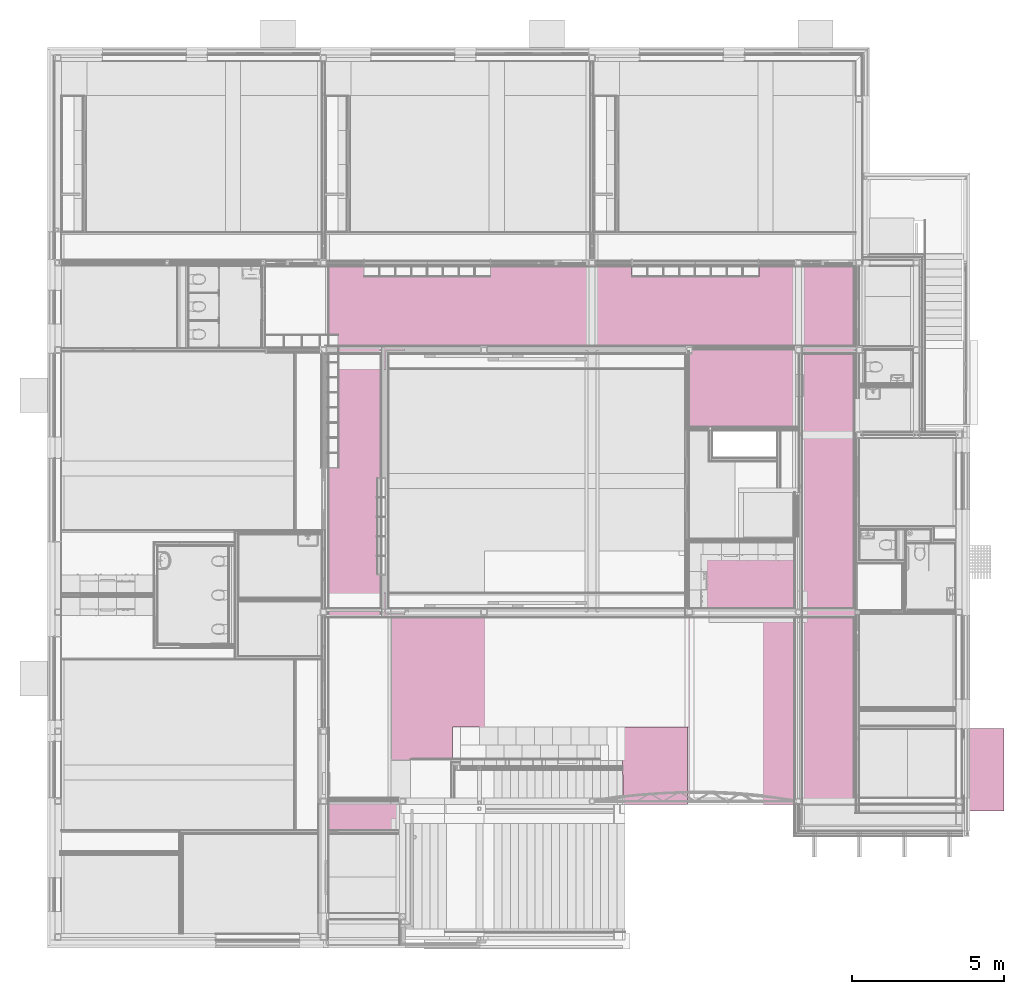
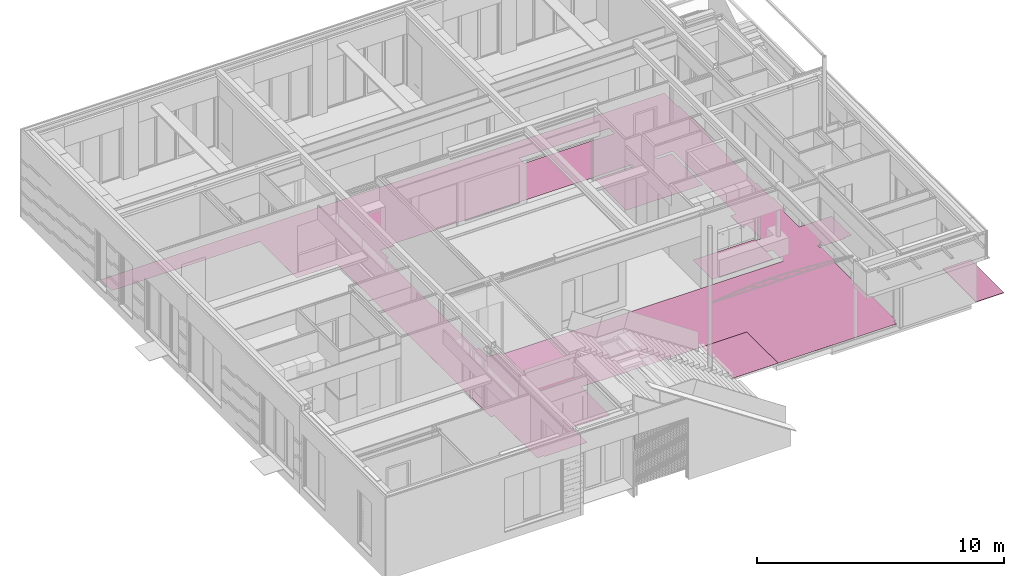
# One storey, part 124 of 165: 4 furnishings.
"""IFC2X3 building model written with IfcOpenShell, lengths in millimetres."""

from ifc_helpers import new_model, entity, si_unit, converted_unit, derived_unit, money_unit, direction, frame, origin_with_axes, place, context, subcontext, project, spatial, faceted_brep, material, type_object, element, save


model = new_model("IFC2X3")

# Units and contexts
model_context = context("Model", 3, precision=0.01, world=origin_with_axes(), true_north=direction((0.0, 1.0)))
body_context = subcontext(model_context, "Body", "Model", "MODEL_VIEW")
ifc_project = project(units=[si_unit("LENGTHUNIT", "METRE", prefix="MILLI"), si_unit("AREAUNIT", "SQUARE_METRE"), si_unit("VOLUMEUNIT", "CUBIC_METRE"), converted_unit("PLANEANGLEUNIT", "DEGREE", entity("IfcPlaneAngleMeasure", 0.0174532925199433), si_unit("PLANEANGLEUNIT", "RADIAN"), dimensions=[0, 0, 0, 0, 0, 0, 0]), money_unit("EUR"), converted_unit("TIMEUNIT", "Year", entity("IfcTimeMeasure", 31556926.0), si_unit("TIMEUNIT", "SECOND"), dimensions=[0, 0, 1, 0, 0, 0, 0]), si_unit("MASSUNIT", "GRAM", prefix="KILO"), si_unit("THERMODYNAMICTEMPERATUREUNIT", "DEGREE_CELSIUS"), si_unit("LUMINOUSINTENSITYUNIT", "LUMEN"), si_unit("ENERGYUNIT", "JOULE", prefix="MEGA"), derived_unit("THERMALCONDUCTANCEUNIT", [(si_unit("POWERUNIT", "WATT"), 1), (si_unit("LENGTHUNIT", "METRE"), -1), (si_unit("THERMODYNAMICTEMPERATUREUNIT", "KELVIN"), -1)]), derived_unit("SPECIFICHEATCAPACITYUNIT", [(si_unit("ENERGYUNIT", "JOULE"), 1), (si_unit("MASSUNIT", "GRAM", prefix="KILO"), -1), (si_unit("THERMODYNAMICTEMPERATUREUNIT", "KELVIN"), -1)]), derived_unit("MASSDENSITYUNIT", [(si_unit("MASSUNIT", "GRAM", prefix="KILO"), 1), (si_unit("VOLUMEUNIT", "CUBIC_METRE"), -1)])], contexts=[model_context])

# Site, building, storey
site_placement = place(None, origin_with_axes())
site = spatial("IfcSite", under=ifc_project, at=site_placement, Name="Site", CompositionType="ELEMENT")
building_placement = place(site_placement, origin_with_axes())
building = spatial("IfcBuilding", under=site, at=building_placement, Name="Naam gebouw", CompositionType="ELEMENT")
storey_placement = place(building_placement, origin_with_axes())
storey = spatial("IfcBuildingStorey", under=building, at=storey_placement, Name="Begane grond", CompositionType="ELEMENT", Elevation=0.0)

# Furnishings
ifc_material_1 = material(Name="48 vloeivloer Bolidt")
furniture_type_1 = type_object("IfcFurnitureType", Name="48 vloeivloer Bolidt 2", AssemblyPlace="NOTDEFINED")
furnishing_1_placement = place(storey_placement, frame((20899.99903050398, 13104.99810421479, 0.0), z_axis=(0.0, 0.0, 1.0), x_axis=(1.0, 0.0, 0.0)))
element("IfcFurnishingElement", 1, at=furnishing_1_placement, inside=storey, type_object=furniture_type_1, material=ifc_material_1, Name="72_44 vloeivloer", ObjectType="SHELF", context=body_context, shape_type="Brep", body=[
    faceted_brep([(582.0026438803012, -959.9992874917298, 0.0), (582.0026438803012, -1559.99928749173, 0.0), (582.0026438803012, -2159.999287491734, 0.0), (582.0026438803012, -2159.999287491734, 2.000000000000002), (582.0026438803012, -1559.99928749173, 2.000000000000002), (582.0026438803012, -959.9992874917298, 2.000000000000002), (582.0026438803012, -582.0004021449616, 2.000000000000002), (582.0026438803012, -582.0004021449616, 0.0), (3465.000009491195, -582.0004021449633, 0.0), (3464.999583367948, -2159.999295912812, 0.0), (3464.999583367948, -2159.999295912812, 2.000000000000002), (3465.000009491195, -582.0004021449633, 2.000000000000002)], [[[0, 1, 2, 3, 4, 5, 6, 7]], [[1, 0, 7, 8, 9, 2]], [[9, 10, 3, 2]], [[5, 4, 3, 10, 11, 6]], [[8, 7, 6, 11]], [[11, 10, 9, 8]]]),
])
ifc_material_2 = material(Name="43 Forbo Striato")
furniture_type_2 = type_object("IfcFurnitureType", Name="43 Forbo Striato  2", AssemblyPlace="NOTDEFINED")
furnishing_2_placement = place(storey_placement, frame((-2.579226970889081e-06, 23324.99984707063, 0.0), z_axis=(0.0, 0.0, 1.0), x_axis=(1.0, 0.0, 0.0)))
element("IfcFurnishingElement", 2, at=furnishing_2_placement, inside=storey, type_object=furniture_type_2, material=ifc_material_2, Name="72_43 marmoleum", ObjectType="SHELF", context=body_context, shape_type="Brep", body=[
    faceted_brep([(18199.00001944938, -16322.99955459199, 2.000000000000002), (18200.00001944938, -16322.99955459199, 2.000000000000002), (18199.99999184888, -16304.99984707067, 2.000000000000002), (20840.00000257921, -16304.99984707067, 2.000000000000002), (20840.00000257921, -18845.00059021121, 2.000000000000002), (26386.00000257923, -18844.99984707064, 2.000000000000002), (26386.00000257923, -18630.99984707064, 2.000000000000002), (26496.00000257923, -18630.99984707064, 2.000000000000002), (26496.00000257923, -16620.99984707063, 2.000000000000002), (26386.00000257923, -16620.99984707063, 2.000000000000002), (26386.00000257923, -13777.49973651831, 2.000000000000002), (26448.50000257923, -13777.49973651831, 2.000000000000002), (26448.50000257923, -12577.49973651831, 2.000000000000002), (26386.00000257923, -12577.49973651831, 2.000000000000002), (26386.00000257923, -12452.49974272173, 2.000000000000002), (26511.0000160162, -12452.49973355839, 2.000000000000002), (26511.0000160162, -12577.49973651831, 2.000000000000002), (27590.81766259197, -12577.49973651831, 2.000000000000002), (27590.81766259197, -12514.99972801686, 2.000000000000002), (27924.99999595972, -12514.99973718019, 2.000000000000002), (27924.99999595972, -10925.00163992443, 2.000000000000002), (26386.00000257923, -10925.00163992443, 2.000000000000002), (26386.00000257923, -9675.00206540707, 2.000000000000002), (26511.00000257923, -9675.00206540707, 2.000000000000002), (26511.00000257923, -8595.002065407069, 2.000000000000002), (26448.50000257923, -8595.002065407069, 2.000000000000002), (26448.50000257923, -7395.002065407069, 2.000000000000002), (26386.00000257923, -7395.002065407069, 2.000000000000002), (26386.00000257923, -3749.999454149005, 2.000000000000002), (26436.00000257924, -3749.999454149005, 2.000000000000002), (26436.00000257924, -3244.02360432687, 2.000000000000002), (26496.00000257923, -3244.02360432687, 2.000000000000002), (26496.00000257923, -2114.023594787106, 2.000000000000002), (26451.00000257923, -2114.023594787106, 2.000000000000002), (26451.00000257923, -1114.023476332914, 2.000000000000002), (26386.00000257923, -1114.023476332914, 2.000000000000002), (26386.00000257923, 0.0, 2.000000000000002), (0.0, 0.0, 2.000000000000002), (0.0, -884.982038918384, 2.000000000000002), (214.0016831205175, -885.0000001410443, 2.000000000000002), (214.0000025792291, -905.0230615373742, 2.000000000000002), (6939.99992100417, -905.0051004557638, 2.000000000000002), (6939.99992100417, -3875.000035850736, 2.000000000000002), (8850.000002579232, -3875.000035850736, 2.000000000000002), (8850.000002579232, -16319.99984707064, 2.000000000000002), (9025.000002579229, -16319.99984707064, 2.000000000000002), (9025.000002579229, -19762.50413489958, 2.000000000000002), (9326.000002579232, -19762.50413489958, 2.000000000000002), (9326.000002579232, -19825.00413489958, 2.000000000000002), (11336.00000257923, -19825.00413489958, 2.000000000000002), (11336.00000257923, -18631.00009071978, 2.000000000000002), (13098.57016425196, -18630.99981325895, 2.000000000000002), (13098.57016425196, -16304.99984707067, 2.000000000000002), (14000.00004201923, -16304.99984707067, 2.000000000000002), (14000.00001944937, -16322.99955459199, 2.000000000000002), (14001.00001944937, -16322.99955459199, 2.000000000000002), (14001.00001944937, -16304.99955459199, 2.000000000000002), (14599.00001944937, -16304.99955459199, 2.000000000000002), (14599.00001944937, -16322.99955459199, 2.000000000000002), (14582.00001944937, -16322.99955459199, 2.000000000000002), (14582.00001944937, -16323.99955459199, 2.000000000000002), (14618.00001944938, -16323.99955459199, 2.000000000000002), (14618.00001944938, -16322.99955459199, 2.000000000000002), (14601.00001944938, -16322.99955459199, 2.000000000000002), (14601.00001944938, -16304.99955459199, 2.000000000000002), (15199.00001944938, -16304.99955459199, 2.000000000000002), (15199.00001944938, -16322.99955459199, 2.000000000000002), (15182.00001944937, -16322.99955459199, 2.000000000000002), (15182.00001944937, -16323.99955459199, 2.000000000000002), (15218.00001944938, -16323.99955459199, 2.000000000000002), (15218.00001944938, -16322.99955459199, 2.000000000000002), (15201.00001944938, -16322.99955459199, 2.000000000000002), (15201.00001944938, -16304.99955459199, 2.000000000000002), (15799.00001944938, -16304.99955459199, 2.000000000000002), (15799.00001944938, -16322.99955459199, 2.000000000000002), (15782.00001944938, -16322.99955459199, 2.000000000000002), (15782.00001944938, -16323.99955459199, 2.000000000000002), (15818.00001944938, -16323.99955459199, 2.000000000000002), (15818.00001944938, -16322.99955459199, 2.000000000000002), (15801.00001944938, -16322.99955459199, 2.000000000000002), (15801.00001944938, -16304.99955459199, 2.000000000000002), (16399.00001944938, -16304.99955459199, 2.000000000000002), (16399.00001944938, -16322.99955459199, 2.000000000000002), (16382.00001944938, -16322.99955459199, 2.000000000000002), (16382.00001944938, -16323.99955459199, 2.000000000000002), (16418.00001944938, -16323.99955459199, 2.000000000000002), (16418.00001944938, -16322.99955459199, 2.000000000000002), (16401.00001944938, -16322.99955459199, 2.000000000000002), (16401.00001944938, -16304.99955459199, 2.000000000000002), (16999.00001944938, -16304.99955459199, 2.000000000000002), (16999.00001944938, -16322.99955459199, 2.000000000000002), (16982.00001944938, -16322.99955459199, 2.000000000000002), (16982.00001944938, -16323.99955459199, 2.000000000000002), (17018.00001944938, -16323.99955459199, 2.000000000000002), (17018.00001944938, -16322.99955459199, 2.000000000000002), (17001.00001944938, -16322.99955459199, 2.000000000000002), (17001.00001944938, -16304.99955459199, 2.000000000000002), (17599.00001944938, -16304.99955459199, 2.000000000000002), (17599.00001944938, -16322.99955459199, 2.000000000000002), (17582.00001944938, -16322.99955459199, 2.000000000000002), (17582.00001944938, -16323.99955459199, 2.000000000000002), (17600.00001944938, -16323.99955459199, 2.000000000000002), (17618.00001944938, -16323.99955459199, 2.000000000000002), (17618.00001944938, -16322.99955459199, 2.000000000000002), (17601.00001944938, -16322.99955459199, 2.000000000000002), (17601.00001944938, -16304.99955459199, 2.000000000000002), (18199.00001944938, -16304.99955459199, 2.000000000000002), (24634.99904257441, -9760.001898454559, 2.000000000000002), (24634.9990425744, -10870.00214500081, 2.000000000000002), (24364.99903527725, -10870.00203554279, 2.000000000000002), (24364.99865014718, -11820.00203554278, 2.000000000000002), (24634.99865744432, -11820.00214500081, 2.000000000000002), (24634.99906809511, -12705.00103034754, 2.000000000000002), (11515.00000257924, -12705.00103034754, 2.000000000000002), (11515.00000257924, -12565.00103034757, 2.000000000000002), (10874.99999623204, -12565.00103034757, 2.000000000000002), (10875.00008382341, -11875.00103034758, 2.000000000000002), (10740.00000257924, -11875.00103034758, 2.000000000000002), (10740.00000257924, -4514.999454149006, 2.000000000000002), (10875.00008382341, -4514.999454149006, 2.000000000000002), (10875.00000257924, -3874.999454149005, 2.000000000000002), (11515.00000257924, -3874.999454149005, 2.000000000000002), (11515.00000257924, -3739.999454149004, 2.000000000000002), (22719.98347582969, -3739.999454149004, 2.000000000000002), (22719.98347582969, -3864.999454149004, 2.000000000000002), (20900.65795118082, -3864.999454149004, 2.000000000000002), (20900.65795118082, -6410.00206540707, 2.000000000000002), (24509.99904257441, -6410.002021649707, 2.000000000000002), (24509.99904257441, -3864.999454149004, 2.000000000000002), (23799.98347582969, -3864.999454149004, 2.000000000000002), (23799.98347582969, -3739.999454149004, 2.000000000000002), (24634.99904257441, -3739.999454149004, 2.000000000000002), (24634.99904257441, -8860.001898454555, 2.000000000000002), (24364.99896548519, -8860.001898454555, 2.000000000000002), (24364.99904257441, -9760.001898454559, 2.000000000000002), (18999.9990425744, -1462.523633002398, 2.000000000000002), (18999.9990425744, -1062.520596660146, 2.000000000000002), (23199.99904257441, -1062.520596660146, 2.000000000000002), (23199.99904257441, -1462.523633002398, 2.000000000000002), (18200.00001944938, -16322.99955459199, 0.0), (18199.00001944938, -16322.99955459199, 1.000000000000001), (17618.00001944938, -16322.99955459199, 1.000000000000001), (17618.00001944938, -16322.99955459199, 0.0), (18199.99999184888, -16304.99984707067, 0.0), (20840.00000257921, -16304.99984707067, 0.0), (20840.00000257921, -18845.00059021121, 0.0), (26386.00000257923, -18844.99984707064, 0.0), (26386.00000257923, -18630.99984707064, 0.0), (26496.00000257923, -18630.99984707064, 0.0), (26496.00000257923, -16620.99984707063, 0.0), (26386.00000257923, -16620.99984707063, 0.0), (26386.00000257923, -13777.49973651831, 0.0), (26448.50000257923, -13777.49973651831, 0.0), (26448.50000257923, -12577.49973651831, 0.0), (26386.00000257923, -12577.49973651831, 0.0), (26386.00000257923, -12452.49974272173, 0.0), (26511.0000160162, -12452.49973355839, 0.0), (26511.0000160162, -12577.49973651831, 0.0), (27590.81766259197, -12577.49973651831, 0.0), (27590.81766259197, -12514.99972801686, 0.0), (27924.99999595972, -12514.99973718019, 0.0), (27924.99999595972, -10925.00163992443, 0.0), (26386.00000257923, -10925.00163992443, 0.0), (26386.00000257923, -9675.00206540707, 0.0), (26511.00000257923, -9675.00206540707, 0.0), (26511.00000257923, -8595.002065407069, 0.0), (26448.50000257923, -8595.002065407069, 0.0), (26448.50000257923, -7395.002065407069, 0.0), (26386.00000257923, -7395.002065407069, 0.0), (26386.00000257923, -3749.999454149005, 0.0), (26436.00000257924, -3749.999454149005, 0.0), (26436.00000257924, -3244.02360432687, 0.0), (26496.00000257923, -3244.02360432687, 0.0), (26496.00000257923, -2114.023594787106, 0.0), (26451.00000257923, -2114.023594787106, 0.0), (26451.00000257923, -1114.023476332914, 0.0), (26386.00000257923, -1114.023476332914, 0.0), (26386.00000257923, 0.0, 0.0), (0.0, 0.0, 0.0), (0.0, -884.982038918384, 0.0), (214.0016831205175, -885.0000001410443, 0.0), (214.0000025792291, -905.0230615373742, 0.0), (6939.99992100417, -905.0051004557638, 0.0), (6939.99992100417, -3875.000035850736, 0.0), (8850.000002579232, -3875.000035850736, 0.0), (8850.000002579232, -16319.99984707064, 0.0), (9025.000002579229, -16319.99984707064, 0.0), (9025.000002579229, -19762.50413489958, 0.0), (9326.000002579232, -19762.50413489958, 0.0), (9326.000002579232, -19825.00413489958, 0.0), (11336.00000257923, -19825.00413489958, 0.0), (11336.00000257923, -18631.00009071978, 0.0), (13098.57016425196, -18630.99981325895, 0.0), (13098.57016425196, -16304.99984707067, 0.0), (14000.00004201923, -16304.99984707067, 0.0), (14000.00001944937, -16322.99955459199, 0.0), (14582.00001944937, -16322.99955459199, 0.0), (14582.00001944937, -16322.99955459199, 1.000000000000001), (14001.00001944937, -16322.99955459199, 1.000000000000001), (14001.00001944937, -16304.99955459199, 1.000000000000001), (14599.00001944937, -16304.99955459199, 1.000000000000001), (14599.00001944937, -16322.99955459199, 1.000000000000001), (14582.00001944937, -16894.99955459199, 0.0), (14582.00001944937, -16894.99955459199, 2.000000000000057), (14582.00001944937, -16893.99955459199, 2.000000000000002), (14582.00001944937, -16893.99955459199, 1.000000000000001), (14582.00001944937, -16323.99955459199, 1.000000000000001), (14618.00001944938, -16323.99955459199, 1.000000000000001), (14618.00001944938, -16893.99955459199, 1.000000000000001), (14618.00001944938, -16893.99955459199, 2.000000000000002), (14618.00001944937, -16894.99955459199, 2.000000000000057), (14618.00001944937, -16894.99955459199, 0.0), (14618.00001944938, -16322.99955459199, 0.0), (14618.00001944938, -16322.99955459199, 1.000000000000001), (14601.00001944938, -16322.99955459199, 1.000000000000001), (14601.00001944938, -16304.99955459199, 1.000000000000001), (15199.00001944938, -16304.99955459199, 1.000000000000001), (15199.00001944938, -16322.99955459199, 1.000000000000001), (15182.00001944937, -16322.99955459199, 1.000000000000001), (15182.00001944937, -16894.99955459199, 0.0), (15182.00001944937, -16894.99955459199, 2.000000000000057), (15182.00001944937, -16893.99955459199, 2.000000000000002), (15182.00001944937, -16893.99955459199, 1.000000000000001), (15182.00001944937, -16323.99955459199, 1.000000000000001), (15182.00001944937, -16322.99955459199, 0.0), (15218.00001944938, -16323.99955459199, 1.000000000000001), (15218.00001944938, -16893.99955459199, 2.000000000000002), (15218.00001944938, -16894.99955459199, 2.000000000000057), (15218.00001944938, -16894.99955459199, 0.0), (15218.00001944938, -16322.99955459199, 0.0), (15218.00001944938, -16322.99955459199, 1.000000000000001), (15218.00001944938, -16893.99955459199, 1.000000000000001), (15201.00001944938, -16322.99955459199, 1.000000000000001), (15201.00001944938, -16304.99955459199, 1.000000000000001), (15799.00001944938, -16304.99955459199, 1.000000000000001), (15799.00001944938, -16322.99955459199, 1.000000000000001), (15782.00001944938, -16322.99955459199, 1.000000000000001), (15782.00001944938, -16894.99955459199, 2.000000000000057), (15782.00001944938, -16893.99955459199, 2.000000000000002), (15782.00001944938, -16893.99955459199, 1.000000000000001), (15782.00001944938, -16323.99955459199, 1.000000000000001), (15782.00001944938, -16322.99955459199, 0.0), (15782.00001944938, -16894.99955459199, 0.0), (15818.00001944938, -16323.99955459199, 1.000000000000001), (15818.00001944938, -16894.99955459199, 2.000000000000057), (15818.00001944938, -16894.99955459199, 0.0), (15818.00001944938, -16322.99955459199, 0.0), (15818.00001944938, -16322.99955459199, 1.000000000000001), (15818.00001944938, -16893.99955459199, 1.000000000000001), (15818.00001944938, -16893.99955459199, 2.000000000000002), (15801.00001944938, -16322.99955459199, 1.000000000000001), (15801.00001944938, -16304.99955459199, 1.000000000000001), (16399.00001944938, -16304.99955459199, 1.000000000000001), (16399.00001944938, -16322.99955459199, 1.000000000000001), (16382.00001944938, -16322.99955459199, 1.000000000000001), (16382.00001944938, -16893.99955459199, 2.000000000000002), (16382.00001944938, -16893.99955459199, 1.000000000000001), (16382.00001944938, -16323.99955459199, 1.000000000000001), (16382.00001944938, -16322.99955459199, 0.0), (16382.00001944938, -16894.99955459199, 0.0), (16382.00001944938, -16894.99955459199, 2.000000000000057), (16418.00001944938, -16323.99955459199, 1.000000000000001), (16418.00001944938, -16894.99955459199, 0.0), (16418.00001944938, -16322.99955459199, 0.0), (16418.00001944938, -16322.99955459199, 1.000000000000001), (16418.00001944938, -16893.99955459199, 1.000000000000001), (16418.00001944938, -16893.99955459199, 2.000000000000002), (16418.00001944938, -16894.99955459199, 2.000000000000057), (16401.00001944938, -16322.99955459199, 1.000000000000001), (16401.00001944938, -16304.99955459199, 1.000000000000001), (16999.00001944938, -16304.99955459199, 1.000000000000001), (16999.00001944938, -16322.99955459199, 1.000000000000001), (16982.00001944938, -16322.99955459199, 1.000000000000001), (16982.00001944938, -16893.99955459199, 1.000000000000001), (16982.00001944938, -16323.99955459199, 1.000000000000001), (16982.00001944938, -16322.99955459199, 0.0), (16982.00001944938, -16894.99955459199, 0.0), (16982.00001944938, -16894.99955459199, 2.000000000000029), (16982.00001944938, -16893.99955459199, 2.000000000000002), (17018.00001944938, -16323.99955459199, 1.000000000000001), (17018.00001944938, -16322.99955459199, 0.0), (17018.00001944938, -16322.99955459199, 1.000000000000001), (17018.00001944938, -16893.99955459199, 1.000000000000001), (17018.00001944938, -16893.99955459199, 2.000000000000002), (17018.00001944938, -16894.99955459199, 2.000000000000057), (17018.00001944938, -16894.99955459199, 0.0), (17001.00001944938, -16322.99955459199, 1.000000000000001), (17001.00001944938, -16304.99955459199, 1.000000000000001), (17599.00001944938, -16304.99955459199, 1.000000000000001), (17599.00001944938, -16322.99955459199, 1.000000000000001), (17582.00001944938, -16322.99955459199, 1.000000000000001), (17582.00001944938, -16323.99955459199, 1.000000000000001), (17582.00001944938, -16322.99955459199, 0.0), (17582.00001944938, -16894.99955459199, 0.0), (17582.00001944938, -16894.99955459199, 2.000000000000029), (17582.00001944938, -16893.99955459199, 2.000000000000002), (17582.00001944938, -16893.99955459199, 1.000000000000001), (17618.00001944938, -16323.99955459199, 1.000000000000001), (17618.00001944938, -16893.99955459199, 1.000000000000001), (17618.00001944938, -16893.99955459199, 2.000000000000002), (17618.00001944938, -16894.99955459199, 2.000000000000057), (17618.00001944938, -16894.99955459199, 0.0), (17601.00001944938, -16322.99955459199, 1.000000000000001), (17601.00001944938, -16304.99955459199, 1.000000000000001), (18199.00001944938, -16304.99955459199, 1.000000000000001), (24634.99904257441, -9760.001898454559, 0.0), (24634.9990425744, -10870.00214500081, 0.0), (24364.99903527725, -10870.00203554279, 0.0), (24364.99865014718, -11820.00203554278, 0.0), (24634.99865744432, -11820.00214500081, 0.0), (24634.99906809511, -12705.00103034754, 0.0), (11515.00000257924, -12705.00103034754, 0.0), (11515.00000257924, -12565.00103034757, 0.0), (10874.99999623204, -12565.00103034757, 0.0), (10875.00008382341, -11875.00103034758, 0.0), (10740.00000257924, -11875.00103034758, 0.0), (10740.00000257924, -4514.999454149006, 0.0), (10875.00008382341, -4514.999454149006, 0.0), (10875.00000257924, -3874.999454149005, 0.0), (11515.00000257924, -3874.999454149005, 0.0), (11515.00000257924, -3739.999454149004, 0.0), (22719.98347582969, -3739.999454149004, 0.0), (22719.98347582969, -3864.999454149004, 0.0), (20900.65795118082, -3864.999454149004, 0.0), (20900.65795118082, -6410.00206540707, 0.0), (24509.99904257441, -6410.002021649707, 0.0), (24509.99904257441, -3864.999454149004, 0.0), (23799.98347582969, -3864.999454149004, 0.0), (23799.98347582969, -3739.999454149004, 0.0), (24634.99904257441, -3739.999454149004, 0.0), (24634.99904257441, -8860.001898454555, 0.0), (24364.99896548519, -8860.001898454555, 0.0), (24364.99904257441, -9760.001898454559, 0.0), (18999.9990425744, -1462.523633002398, 0.0), (18999.9990425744, -1062.520596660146, 0.0), (23199.99904257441, -1062.520596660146, 0.0), (23199.99904257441, -1462.523633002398, 0.0), (17600.00001944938, -16893.99955459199, 2.000000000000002)], [[[0, 1, 2, 3, 4, 5, 6, 7, 8, 9, 10, 11, 12, 13, 14, 15, 16, 17, 18, 19, 20, 21, 22, 23, 24, 25, 26, 27, 28, 29, 30, 31, 32, 33, 34, 35, 36, 37, 38, 39, 40, 41, 42, 43, 44, 45, 46, 47, 48, 49, 50, 51, 52, 53, 54, 55, 56, 57, 58, 59, 60, 61, 62, 63, 64, 65, 66, 67, 68, 69, 70, 71, 72, 73, 74, 75, 76, 77, 78, 79, 80, 81, 82, 83, 84, 85, 86, 87, 88, 89, 90, 91, 92, 93, 94, 95, 96, 97, 98, 99, 100, 101, 102, 103, 104, 105, 106], [107, 108, 109, 110, 111, 112, 113, 114, 115, 116, 117, 118, 119, 120, 121, 122, 123, 124, 125, 126, 127, 128, 129, 130, 131, 132, 133, 134], [135, 136, 137, 138]], [[139, 1, 0, 140, 141, 142]], [[1, 139, 143, 2]], [[3, 2, 143, 144]], [[4, 3, 144, 145]], [[5, 4, 145, 146]], [[6, 5, 146, 147]], [[7, 6, 147, 148]], [[8, 7, 148, 149]], [[9, 8, 149, 150]], [[10, 9, 150, 151]], [[11, 10, 151, 152]], [[12, 11, 152, 153]], [[13, 12, 153, 154]], [[14, 13, 154, 155]], [[15, 14, 155, 156]], [[16, 15, 156, 157]], [[17, 16, 157, 158]], [[18, 17, 158, 159]], [[19, 18, 159, 160]], [[20, 19, 160, 161]], [[21, 20, 161, 162]], [[22, 21, 162, 163]], [[23, 22, 163, 164]], [[24, 23, 164, 165]], [[25, 24, 165, 166]], [[26, 25, 166, 167]], [[27, 26, 167, 168]], [[28, 27, 168, 169]], [[29, 28, 169, 170]], [[30, 29, 170, 171]], [[31, 30, 171, 172]], [[32, 31, 172, 173]], [[33, 32, 173, 174]], [[34, 33, 174, 175]], [[35, 34, 175, 176]], [[36, 35, 176, 177]], [[37, 36, 177, 178]], [[38, 37, 178, 179]], [[39, 38, 179, 180]], [[40, 39, 180, 181]], [[41, 40, 181, 182]], [[42, 41, 182, 183]], [[43, 42, 183, 184]], [[44, 43, 184, 185]], [[45, 44, 185, 186]], [[46, 45, 186, 187]], [[47, 46, 187, 188]], [[48, 47, 188, 189]], [[49, 48, 189, 190]], [[50, 49, 190, 191]], [[51, 50, 191, 192]], [[52, 51, 192, 193]], [[53, 52, 193, 194]], [[53, 194, 195, 54]], [[196, 197, 198, 55, 54, 195]], [[199, 56, 55, 198]], [[199, 200, 57, 56]], [[200, 201, 58, 57]], [[58, 201, 197, 59]], [[196, 202, 203, 204, 205, 206, 60, 59, 197]], [[206, 207, 61, 60]], [[208, 209, 210, 211, 212, 213, 62, 61, 207]], [[63, 62, 213, 214]], [[215, 64, 63, 214]], [[216, 65, 64, 215]], [[217, 66, 65, 216]], [[217, 218, 67, 66]], [[219, 220, 221, 222, 223, 68, 67, 218, 224]], [[225, 69, 68, 223]], [[226, 227, 228, 229, 230, 70, 69, 225, 231]], [[70, 230, 232, 71]], [[72, 71, 232, 233]], [[73, 72, 233, 234]], [[74, 73, 234, 235]], [[236, 75, 74, 235]], [[237, 238, 239, 240, 76, 75, 236, 241, 242]], [[77, 76, 240, 243]], [[244, 245, 246, 247, 78, 77, 243, 248, 249]], [[247, 250, 79, 78]], [[79, 250, 251, 80]], [[80, 251, 252, 81]], [[81, 252, 253, 82]], [[83, 82, 253, 254]], [[255, 256, 257, 84, 83, 254, 258, 259, 260]], [[84, 257, 261, 85]], [[262, 263, 264, 86, 85, 261, 265, 266, 267]], [[268, 87, 86, 264]], [[268, 269, 88, 87]], [[269, 270, 89, 88]], [[270, 271, 90, 89]], [[90, 271, 272, 91]], [[273, 274, 92, 91, 272, 275, 276, 277, 278]], [[274, 279, 93, 92]], [[280, 281, 94, 93, 279, 282, 283, 284, 285]], [[95, 94, 281, 286]], [[287, 96, 95, 286]], [[288, 97, 96, 287]], [[289, 98, 97, 288]], [[289, 290, 99, 98]], [[291, 100, 99, 290, 292, 293, 294, 295, 296]], [[297, 102, 101, 100, 291]], [[141, 103, 102, 297, 298, 299, 300, 301, 142]], [[103, 141, 302, 104]], [[105, 104, 302, 303]], [[106, 105, 303, 304]], [[140, 0, 106, 304]], [[108, 107, 305, 306]], [[109, 108, 306, 307]], [[110, 109, 307, 308]], [[111, 110, 308, 309]], [[112, 111, 309, 310]], [[113, 112, 310, 311]], [[114, 113, 311, 312]], [[115, 114, 312, 313]], [[116, 115, 313, 314]], [[117, 116, 314, 315]], [[118, 117, 315, 316]], [[119, 118, 316, 317]], [[120, 119, 317, 318]], [[121, 120, 318, 319]], [[122, 121, 319, 320]], [[123, 122, 320, 321]], [[124, 123, 321, 322]], [[125, 124, 322, 323]], [[126, 125, 323, 324]], [[127, 126, 324, 325]], [[128, 127, 325, 326]], [[129, 128, 326, 327]], [[130, 129, 327, 328]], [[131, 130, 328, 329]], [[132, 131, 329, 330]], [[133, 132, 330, 331]], [[134, 133, 331, 332]], [[107, 134, 332, 305]], [[136, 135, 333, 334]], [[137, 136, 334, 335]], [[138, 137, 335, 336]], [[135, 138, 336, 333]], [[140, 304, 303, 302, 141]], [[139, 142, 301, 293, 292, 280, 285, 276, 275, 263, 262, 259, 258, 246, 245, 242, 241, 229, 228, 219, 224, 212, 211, 202, 196, 195, 194, 193, 192, 191, 190, 189, 188, 187, 186, 185, 184, 183, 182, 181, 180, 179, 178, 177, 176, 175, 174, 173, 172, 171, 170, 169, 168, 167, 166, 165, 164, 163, 162, 161, 160, 159, 158, 157, 156, 155, 154, 153, 152, 151, 150, 149, 148, 147, 146, 145, 144, 143], [325, 324, 323, 322, 321, 320, 319, 318, 317, 316, 315, 314, 313, 312, 311, 310, 309, 308, 307, 306, 305, 332, 331, 330, 329, 328, 327, 326], [333, 336, 335, 334]], [[198, 197, 201, 200, 199]], [[202, 211, 210, 203]], [[203, 210, 209, 204]], [[209, 208, 205, 204]], [[205, 208, 207, 206]], [[224, 218, 213, 212]], [[218, 217, 216, 215, 214, 213]], [[228, 227, 220, 219]], [[227, 226, 221, 220]], [[226, 231, 222, 221]], [[231, 225, 223, 222]], [[241, 236, 230, 229]], [[234, 233, 232, 230, 236, 235]], [[249, 238, 237, 244]], [[239, 238, 249, 248]], [[243, 240, 239, 248]], [[244, 237, 242, 245]], [[247, 246, 258, 254]], [[252, 251, 250, 247, 254, 253]], [[256, 255, 266, 265]], [[257, 256, 265, 261]], [[260, 259, 262, 267]], [[255, 260, 267, 266]], [[264, 263, 275, 272]], [[268, 264, 272, 271, 270, 269]], [[273, 282, 279, 274]], [[276, 285, 284, 277]], [[277, 284, 283, 278]], [[283, 282, 273, 278]], [[292, 290, 281, 280]], [[286, 281, 290, 289, 288, 287]], [[301, 300, 294, 293]], [[300, 299, 337, 295, 294]], [[299, 298, 296, 295, 337]], [[298, 297, 291, 296]]]),
])
ifc_material_3 = material(Name="Vloerafwerking - schoonloopzone 1")
furniture_type_3 = type_object("IfcFurnitureType", Name="Vloerafwerking - schoonloopzone 1 25", AssemblyPlace="NOTDEFINED")
furnishing_3_placement = place(storey_placement, frame((29976.99999999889, 6969.997857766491, -20.0), z_axis=(0.0, 0.0, 1.0), x_axis=(1.0, 0.0, 0.0)))
element("IfcFurnishingElement", 3, at=furnishing_3_placement, inside=storey, type_object=furniture_type_3, material=ifc_material_3, Name="72_43 schoonloop zone 1", ObjectType="SHELF", context=body_context, shape_type="Brep", body=[
    faceted_brep([(0.0, 0.0, 0.0), (0.0, 0.0, -25.0), (0.0, -2719.997857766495, -25.0), (0.0, -2719.997857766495, 0.0), (1300.000000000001, 0.0, 0.0), (1300.000000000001, 0.0, -25.0), (1300.000000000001, -2719.997857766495, -25.0), (1300.000000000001, -2719.997857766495, 0.0)], [[[0, 1, 2, 3]], [[4, 5, 1, 0]], [[2, 1, 5, 6]], [[3, 2, 6, 7]], [[4, 0, 3, 7]], [[7, 6, 5, 4]]]),
])
ifc_material_4 = material(Name="Vloerafwerking - schoonloopzone 3")
furniture_type_4 = type_object("IfcFurnitureType", Name="Vloerafwerking - schoonloopzone 3 10", AssemblyPlace="NOTDEFINED")
furnishing_4_placement = place(storey_placement, frame((20839.99999999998, 7019.999999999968, -7.999999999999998), z_axis=(0.0, 0.0, 1.0), x_axis=(1.0, 0.0, 0.0)))
element("IfcFurnishingElement", 4, at=furnishing_4_placement, inside=storey, type_object=furniture_type_4, material=ifc_material_4, Name="72_43 marmoleum", ObjectType="SHELF", context=body_context, shape_type="Brep", body=[
    faceted_brep([(0.0, 0.0, 10.0), (0.0, 0.0, 0.0), (-2130.002044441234, 0.0, 0.0), (-2130.002044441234, 0.0, 10.0), (0.0, -2540.000743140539, 10.0), (0.0, -2540.000743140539, 0.0), (-2124.818188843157, -2544.176597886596, 0.0), (-2124.818188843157, -2544.176597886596, 10.0)], [[[0, 1, 2, 3]], [[4, 5, 1, 0]], [[2, 1, 5, 6]], [[3, 2, 6, 7]], [[4, 0, 3, 7]], [[7, 6, 5, 4]]]),
])

save(model, "model.ifc")
